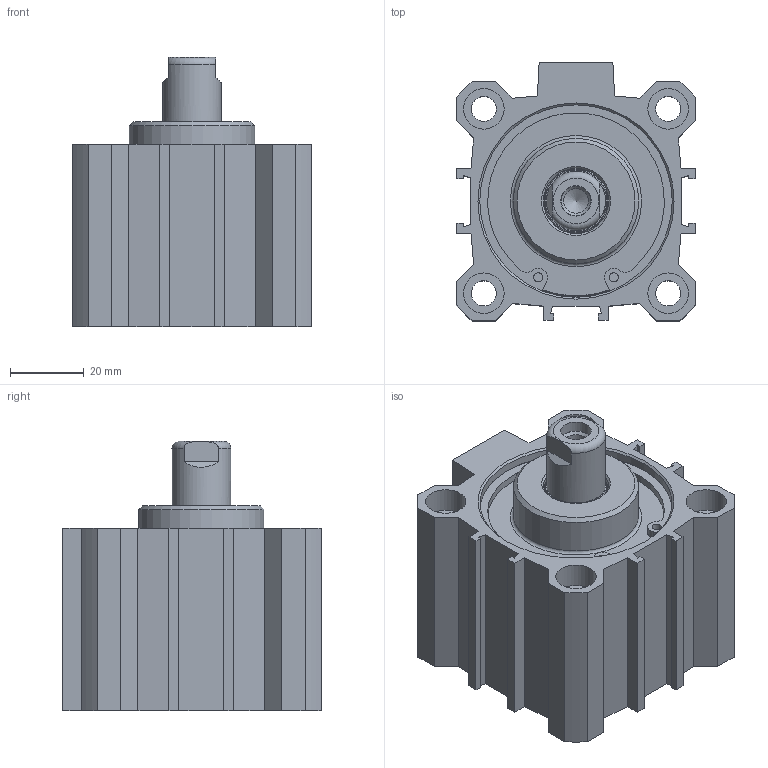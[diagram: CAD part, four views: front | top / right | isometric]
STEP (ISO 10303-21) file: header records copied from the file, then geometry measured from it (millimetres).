
FILE_DESCRIPTION(/* description */ ('Unknown'),/* implementation_level */ '2;1');
FILE_NAME(/* name */ 'FENV 50_10',/* time_stamp */ '2026-05-12T07:23:47+02:00',/* author */ ('Unknown'),/* organization */ ('Unknown'),/* preprocessor_version */ 'ST-DEVELOPER v18.102',/* originating_system */ 'Solid Edge',/* authorisation */ 'Unknown');
FILE_SCHEMA (('AUTOMOTIVE_DESIGN {1 0 10303 214 3 1 1}'));
Length unit declared in the file: millimetre
Products named in the file (5): FENV 50_10; Kit_1; Profilrohr; Kit_2; Kolbenstange
Assembly tree (4 placements, depth 2):
  FENV 50_10
    Kit_1
    Profilrohr
    Kit_2
    Kolbenstange
Bounding box: 65 x 70 x 73 mm (x, y, z)
Volume: 150504.3 mm3; surface area: 57613.9 mm2
Topology: 4 solids, 5 shells, 208 faces, 487 edges, 310 vertices
Faces by surface type: plane 107, cylinder 60, cone 31, torus 10
Full cylindrical faces by diameter (mm): 2.5 x4, 2.75 x2, 6.647 x2, 6.8 x4, 8.25 x1, 8.566 x4, 11 x8, 16 x2, 16.54 x1, 17.7 x1, 18 x1, 20.32 x1, 20.5 x1, 34 x1, 37 x1, 50 x2, 51.8 x4, 52.2 x2, 55.2 x2
Entity records: 7104 total; most frequent: CARTESIAN_POINT 1052, DIRECTION 964, ORIENTED_EDGE 780, EDGE_CURVE 390, AXIS2_PLACEMENT_3D 371, FACE_BOUND 331, EDGE_LOOP 330, VERTEX_POINT 297
